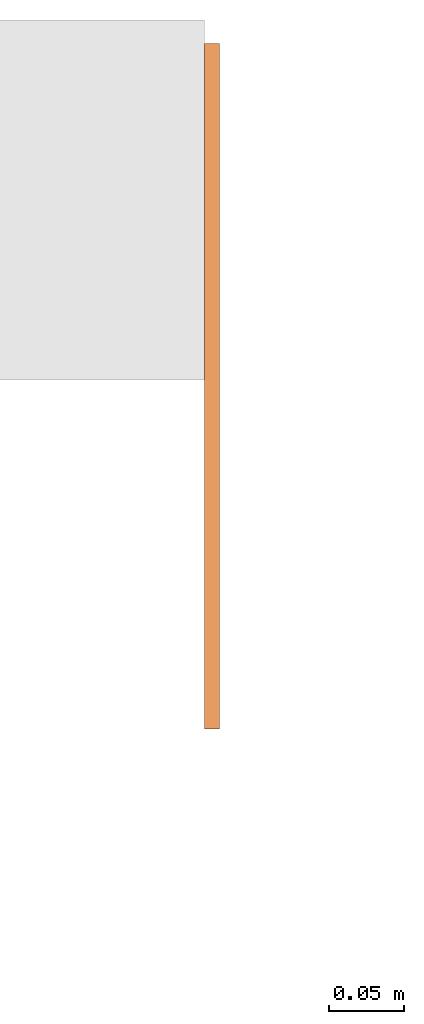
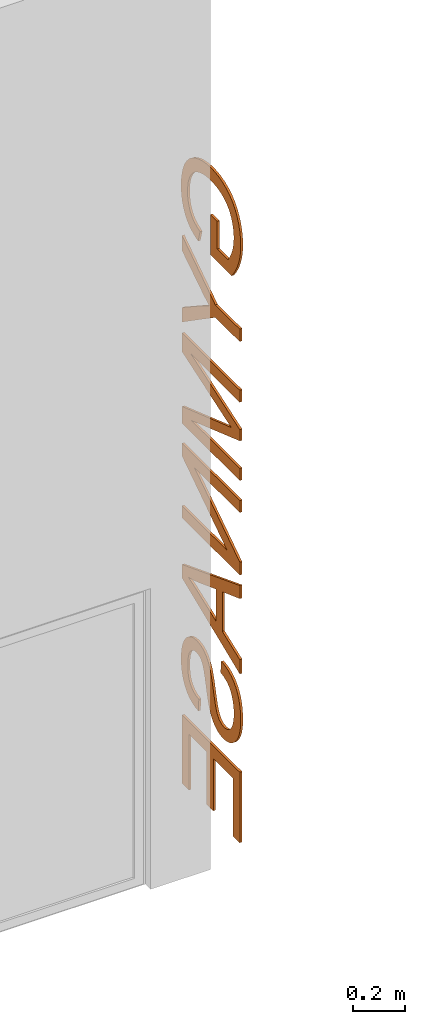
# One storey, part 14 of 14: 1 proxy.
"""IFC2X3 building model written with IfcOpenShell, lengths in metres."""

from ifc_helpers import new_model, entity, si_unit, converted_unit, money_unit, direction, frame, origin_with_axes, place, context, subcontext, project, spatial, faceted_brep, material, type_object, element, save


model = new_model("IFC2X3")

# Units and contexts
model_context = context("Model", 3, precision=1e-05, world=origin_with_axes(), true_north=direction((0.0, 1.0)))
body_context = subcontext(model_context, "Body", "Model", "MODEL_VIEW")
ifc_project = project(units=[si_unit("LENGTHUNIT", "METRE"), si_unit("AREAUNIT", "SQUARE_METRE"), si_unit("VOLUMEUNIT", "CUBIC_METRE"), converted_unit("PLANEANGLEUNIT", "DEGREE", entity("IfcPlaneAngleMeasure", 0.0174532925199), si_unit("PLANEANGLEUNIT", "RADIAN"), dimensions=[0, 0, 0, 0, 0, 0, 0]), si_unit("SOLIDANGLEUNIT", "STERADIAN"), money_unit("EUR"), converted_unit("TIMEUNIT", "Year", entity("IfcTimeMeasure", 31556926.0), si_unit("TIMEUNIT", "SECOND"), dimensions=[0, 0, 0, 0, 0, 0, 0]), si_unit("MASSUNIT", "GRAM"), si_unit("THERMODYNAMICTEMPERATUREUNIT", "DEGREE_CELSIUS"), si_unit("LUMINOUSINTENSITYUNIT", "LUMEN")], contexts=[model_context])

# Site, building, storey
site_placement = place(None, origin_with_axes())
site = spatial("IfcSite", under=ifc_project, at=site_placement, Name="Site", CompositionType="ELEMENT")
building_placement = place(site_placement, origin_with_axes())
building = spatial("IfcBuilding", under=site, at=building_placement, Name="Bâtiment", CompositionType="ELEMENT")
storey_placement = place(building_placement, frame((0.0, 0.0, 3.0), z_axis=(0.0, 0.0, 1.0), x_axis=(1.0, 0.0, 0.0)))
storey = spatial("IfcBuildingStorey", under=building, at=storey_placement, Name="NIVEAU HAUT ENTRÉE", CompositionType="ELEMENT", Elevation=3.0)

# Proxy
ifc_material = material(Name="Sans Trame")
building_element_proxy_type = type_object("IfcBuildingElementProxyType", Name="Texte_3D_OD", PredefinedType="NOTDEFINED")
proxy_placement = place(storey_placement, frame((45.428457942, 26.0639288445, 4.77442807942), z_axis=(0.0, 0.0, 1.0), x_axis=(0.0, 1.0, 0.0)))
element("IfcBuildingElementProxy", 1, at=proxy_placement, inside=storey, type_object=building_element_proxy_type, material=ifc_material, Name="MOB-0004", context=body_context, shape_type="Brep", body=[
    faceted_brep([(0.173109, 0.0, -0.254263), (0.173109, 0.01, -0.254263), (0.173109, 0.01, -0.384171), (0.173109, 0.0, -0.384171), (0.225257, 0.0, -0.254263), (0.225257, 0.01, -0.254263), (0.225257, 0.01, -0.441566), (0.061521, 0.01, -0.441566), (0.045427, 0.01, -0.419837), (0.031459, 0.01, -0.39777), (0.019617, 0.01, -0.375363), (0.009901, 0.01, -0.352618), (0.002329, 0.01, -0.329552), (-0.003079, 0.01, -0.306184), (-0.006324, 0.01, -0.282515), (-0.007406, 0.01, -0.258544), (-0.005663, 0.01, -0.226725), (-0.000435, 0.01, -0.196394), (0.008279, 0.01, -0.167553), (0.020479, 0.01, -0.1402), (0.035976, 0.01, -0.115222), (0.054581, 0.01, -0.093503), (0.076295, 0.01, -0.075045), (0.101117, 0.01, -0.059846), (0.128266, 0.01, -0.047973), (0.15696, 0.01, -0.039493), (0.187198, 0.01, -0.034405), (0.21898, 0.01, -0.032709), (0.250698, 0.01, -0.034395), (0.281342, 0.01, -0.039455), (0.310913, 0.01, -0.047888), (0.339409, 0.01, -0.059694), (0.365569, 0.01, -0.074666), (0.388131, 0.01, -0.092597), (0.407094, 0.01, -0.113486), (0.422458, 0.01, -0.137334), (0.434328, 0.01, -0.163622), (0.442806, 0.01, -0.191831), (0.447893, 0.01, -0.221963), (0.449589, 0.01, -0.254017), (0.448617, 0.01, -0.277412), (0.445703, 0.01, -0.299658), (0.440846, 0.01, -0.320754), (0.434047, 0.01, -0.340701), (0.422328, 0.01, -0.364672), (0.407893, 0.01, -0.384924), (0.390743, 0.01, -0.401456), (0.375806, 0.01, -0.411802), (0.358756, 0.01, -0.420828), (0.339595, 0.01, -0.428534), (0.31832, 0.01, -0.434922), (0.303856, 0.01, -0.38206), (0.324784, 0.01, -0.374889), (0.342497, 0.01, -0.366647), (0.356995, 0.01, -0.357333), (0.369031, 0.01, -0.346075), (0.379354, 0.01, -0.332003), (0.387966, 0.01, -0.315117), (0.394429, 0.01, -0.296153), (0.398307, 0.01, -0.275849), (0.3996, 0.01, -0.254205), (0.398243, 0.01, -0.228675), (0.394173, 0.01, -0.205557), (0.38739, 0.01, -0.184851), (0.378395, 0.01, -0.166608), (0.367693, 0.01, -0.150877), (0.355281, 0.01, -0.137659), (0.341581, 0.01, -0.126585), (0.327009, 0.01, -0.117287), (0.311566, 0.01, -0.109765), (0.290631, 0.01, -0.102378), (0.268831, 0.01, -0.097101), (0.246163, 0.01, -0.093935), (0.222629, 0.01, -0.09288), (0.194292, 0.01, -0.094152), (0.168365, 0.01, -0.097968), (0.14485, 0.01, -0.104329), (0.123747, 0.01, -0.113234), (0.10513, 0.01, -0.12457), (0.089076, 0.01, -0.138224), (0.075584, 0.01, -0.154196), (0.064655, 0.01, -0.172487), (0.056214, 0.01, -0.192238), (0.050184, 0.01, -0.212592), (0.046566, 0.01, -0.23355), (0.04536, 0.01, -0.255111), (0.04698, 0.01, -0.280239), (0.051839, 0.01, -0.304965), (0.059938, 0.01, -0.329289), (0.069873, 0.01, -0.351469), (0.080243, 0.01, -0.369763), (0.091048, 0.01, -0.384171), (0.091048, 0.0, -0.384171), (0.080243, 0.0, -0.369763), (0.069873, 0.0, -0.351469), (0.059938, 0.0, -0.329289), (0.051839, 0.0, -0.304965), (0.04698, 0.0, -0.280239), (0.04536, 0.0, -0.255111), (0.046566, 0.0, -0.23355), (0.050184, 0.0, -0.212592), (0.056214, 0.0, -0.192238), (0.064655, 0.0, -0.172487), (0.075584, 0.0, -0.154196), (0.089076, 0.0, -0.138224), (0.10513, 0.0, -0.12457), (0.123747, 0.0, -0.113234), (0.14485, 0.0, -0.104329), (0.168365, 0.0, -0.097968), (0.194292, 0.0, -0.094152), (0.222629, 0.0, -0.09288), (0.246163, 0.0, -0.093935), (0.268831, 0.0, -0.097101), (0.290631, 0.0, -0.102378), (0.311566, 0.0, -0.109765), (0.327009, 0.0, -0.117287), (0.341581, 0.0, -0.126585), (0.355281, 0.0, -0.137659), (0.367693, 0.0, -0.150877), (0.378395, 0.0, -0.166608), (0.38739, 0.0, -0.184851), (0.394173, 0.0, -0.205557), (0.398243, 0.0, -0.228675), (0.3996, 0.0, -0.254205), (0.398307, 0.0, -0.275849), (0.394429, 0.0, -0.296153), (0.387966, 0.0, -0.315117), (0.379354, 0.0, -0.332003), (0.369031, 0.0, -0.346075), (0.356995, 0.0, -0.357333), (0.342497, 0.0, -0.366647), (0.324784, 0.0, -0.374889), (0.303856, 0.0, -0.38206), (0.31832, 0.0, -0.434922), (0.339595, 0.0, -0.428534), (0.358756, 0.0, -0.420828), (0.375806, 0.0, -0.411802), (0.390743, 0.0, -0.401456), (0.407893, 0.0, -0.384924), (0.422328, 0.0, -0.364672), (0.434047, 0.0, -0.340701), (0.440846, 0.0, -0.320754), (0.445703, 0.0, -0.299658), (0.448617, 0.0, -0.277412), (0.449589, 0.0, -0.254017), (0.447893, 0.0, -0.221963), (0.442806, 0.0, -0.191831), (0.434328, 0.0, -0.163622), (0.422458, 0.0, -0.137334), (0.407094, 0.0, -0.113486), (0.388131, 0.0, -0.092597), (0.365569, 0.0, -0.074666), (0.339409, 0.0, -0.059694), (0.310913, 0.0, -0.047888), (0.281342, 0.0, -0.039455), (0.250698, 0.0, -0.034395), (0.21898, 0.0, -0.032709), (0.187198, 0.0, -0.034405), (0.15696, 0.0, -0.039493), (0.128266, 0.0, -0.047973), (0.101117, 0.0, -0.059846), (0.076295, 0.0, -0.075045), (0.054581, 0.0, -0.093503), (0.035976, 0.0, -0.115222), (0.020479, 0.0, -0.1402), (0.008279, 0.0, -0.167553), (-0.000435, 0.0, -0.196394), (-0.005663, 0.0, -0.226725), (-0.007406, 0.0, -0.258544), (-0.006324, 0.0, -0.282515), (-0.003079, 0.0, -0.306184), (0.002329, 0.0, -0.329552), (0.009901, 0.0, -0.352618), (0.019617, 0.0, -0.375363), (0.031459, 0.0, -0.39777), (0.045427, 0.0, -0.419837), (0.061521, 0.0, -0.441566), (0.225257, 0.0, -0.441566)], [[[0, 1, 2, 3]], [[4, 5, 1, 0]], [[1, 5, 6, 7, 8, 9, 10, 11, 12, 13, 14, 15, 16, 17, 18, 19, 20, 21, 22, 23, 24, 25, 26, 27, 28, 29, 30, 31, 32, 33, 34, 35, 36, 37, 38, 39, 40, 41, 42, 43, 44, 45, 46, 47, 48, 49, 50, 51, 52, 53, 54, 55, 56, 57, 58, 59, 60, 61, 62, 63, 64, 65, 66, 67, 68, 69, 70, 71, 72, 73, 74, 75, 76, 77, 78, 79, 80, 81, 82, 83, 84, 85, 86, 87, 88, 89, 90, 91, 2]], [[3, 2, 91, 92]], [[0, 3, 92, 93, 94, 95, 96, 97, 98, 99, 100, 101, 102, 103, 104, 105, 106, 107, 108, 109, 110, 111, 112, 113, 114, 115, 116, 117, 118, 119, 120, 121, 122, 123, 124, 125, 126, 127, 128, 129, 130, 131, 132, 133, 134, 135, 136, 137, 138, 139, 140, 141, 142, 143, 144, 145, 146, 147, 148, 149, 150, 151, 152, 153, 154, 155, 156, 157, 158, 159, 160, 161, 162, 163, 164, 165, 166, 167, 168, 169, 170, 171, 172, 173, 174, 175, 176, 177, 4]], [[177, 6, 5, 4]], [[176, 7, 6, 177]], [[175, 8, 7, 176]], [[174, 9, 8, 175]], [[173, 10, 9, 174]], [[172, 11, 10, 173]], [[171, 12, 11, 172]], [[170, 13, 12, 171]], [[169, 14, 13, 170]], [[168, 15, 14, 169]], [[167, 16, 15, 168]], [[166, 17, 16, 167]], [[165, 18, 17, 166]], [[164, 19, 18, 165]], [[163, 20, 19, 164]], [[162, 21, 20, 163]], [[161, 22, 21, 162]], [[160, 23, 22, 161]], [[159, 24, 23, 160]], [[158, 25, 24, 159]], [[157, 26, 25, 158]], [[156, 27, 26, 157]], [[155, 28, 27, 156]], [[154, 29, 28, 155]], [[153, 30, 29, 154]], [[152, 31, 30, 153]], [[151, 32, 31, 152]], [[150, 33, 32, 151]], [[149, 34, 33, 150]], [[148, 35, 34, 149]], [[147, 36, 35, 148]], [[146, 37, 36, 147]], [[145, 38, 37, 146]], [[144, 39, 38, 145]], [[143, 40, 39, 144]], [[142, 41, 40, 143]], [[141, 42, 41, 142]], [[140, 43, 42, 141]], [[139, 44, 43, 140]], [[138, 45, 44, 139]], [[137, 46, 45, 138]], [[136, 47, 46, 137]], [[135, 48, 47, 136]], [[134, 49, 48, 135]], [[133, 50, 49, 134]], [[132, 51, 50, 133]], [[131, 52, 51, 132]], [[130, 53, 52, 131]], [[129, 54, 53, 130]], [[128, 55, 54, 129]], [[127, 56, 55, 128]], [[126, 57, 56, 127]], [[125, 58, 57, 126]], [[124, 59, 58, 125]], [[123, 60, 59, 124]], [[122, 61, 60, 123]], [[121, 62, 61, 122]], [[120, 63, 62, 121]], [[119, 64, 63, 120]], [[118, 65, 64, 119]], [[117, 66, 65, 118]], [[116, 67, 66, 117]], [[115, 68, 67, 116]], [[114, 69, 68, 115]], [[113, 70, 69, 114]], [[112, 71, 70, 113]], [[111, 72, 71, 112]], [[110, 73, 72, 111]], [[109, 74, 73, 110]], [[108, 75, 74, 109]], [[107, 76, 75, 108]], [[106, 77, 76, 107]], [[105, 78, 77, 106]], [[104, 79, 78, 105]], [[103, 80, 79, 104]], [[102, 81, 80, 103]], [[101, 82, 81, 102]], [[100, 83, 82, 101]], [[99, 84, 83, 100]], [[98, 85, 84, 99]], [[97, 86, 85, 98]], [[96, 87, 86, 97]], [[95, 88, 87, 96]], [[94, 89, 88, 95]], [[93, 90, 89, 94]], [[92, 91, 90, 93]]]),
    faceted_brep([(0.0, 0.0, -0.653439), (0.0, 0.01, -0.653439), (0.0, 0.01, -0.711759), (0.0, 0.0, -0.711759), (0.187178, 0.0, -0.653439), (0.187178, 0.01, -0.653439), (0.441874, 0.01, -0.483107), (0.441874, 0.01, -0.554228), (0.308417, 0.01, -0.641144), (0.289814, 0.01, -0.653094), (0.271211, 0.01, -0.664586), (0.252609, 0.01, -0.67562), (0.234008, 0.01, -0.686195), (0.25181, 0.01, -0.696702), (0.270728, 0.01, -0.708249), (0.290762, 0.01, -0.720834), (0.311913, 0.01, -0.734458), (0.441874, 0.01, -0.819865), (0.441874, 0.01, -0.887953), (0.187178, 0.01, -0.711759), (0.187178, 0.0, -0.711759), (0.441874, 0.0, -0.887953), (0.441874, 0.0, -0.819865), (0.311913, 0.0, -0.734458), (0.290762, 0.0, -0.720834), (0.270728, 0.0, -0.708249), (0.25181, 0.0, -0.696702), (0.234008, 0.0, -0.686195), (0.252609, 0.0, -0.67562), (0.271211, 0.0, -0.664586), (0.289814, 0.0, -0.653094), (0.308417, 0.0, -0.641144), (0.441874, 0.0, -0.554228), (0.441874, 0.0, -0.483107)], [[[0, 1, 2, 3]], [[4, 5, 1, 0]], [[1, 5, 6, 7, 8, 9, 10, 11, 12, 13, 14, 15, 16, 17, 18, 19, 2]], [[3, 2, 19, 20]], [[0, 3, 20, 21, 22, 23, 24, 25, 26, 27, 28, 29, 30, 31, 32, 33, 4]], [[33, 6, 5, 4]], [[32, 7, 6, 33]], [[31, 8, 7, 32]], [[30, 9, 8, 31]], [[29, 10, 9, 30]], [[28, 11, 10, 29]], [[27, 12, 11, 28]], [[26, 13, 12, 27]], [[25, 14, 13, 26]], [[24, 15, 14, 25]], [[23, 16, 15, 24]], [[22, 17, 16, 23]], [[21, 18, 17, 22]], [[20, 19, 18, 21]]]),
    faceted_brep([(0.0, 0.0, -0.938469), (0.0, 0.01, -0.938469), (0.0, 0.01, -0.994937), (0.0, 0.0, -0.994937), (0.441874, 0.0, -0.938469), (0.441874, 0.01, -0.938469), (0.441874, 0.01, -1.026387), (0.129084, 0.01, -1.131041), (0.1024, 0.01, -1.139822), (0.080604, 0.01, -1.14686), (0.063696, 0.01, -1.152154), (0.082278, 0.01, -1.158136), (0.105882, 0.01, -1.165999), (0.134508, 0.01, -1.175746), (0.441874, 0.01, -1.281918), (0.441874, 0.01, -1.360594), (0.0, 0.01, -1.360594), (0.0, 0.01, -1.304126), (0.369977, 0.01, -1.304126), (0.0, 0.01, -1.175288), (0.0, 0.01, -1.122594), (0.376149, 0.01, -0.994937), (0.376149, 0.0, -0.994937), (0.0, 0.0, -1.122594), (0.0, 0.0, -1.175288), (0.369977, 0.0, -1.304126), (0.0, 0.0, -1.304126), (0.0, 0.0, -1.360594), (0.441874, 0.0, -1.360594), (0.441874, 0.0, -1.281918), (0.134508, 0.0, -1.175746), (0.105882, 0.0, -1.165999), (0.082278, 0.0, -1.158136), (0.063696, 0.0, -1.152154), (0.080604, 0.0, -1.14686), (0.1024, 0.0, -1.139822), (0.129084, 0.0, -1.131041), (0.441874, 0.0, -1.026387)], [[[0, 1, 2, 3]], [[4, 5, 1, 0]], [[1, 5, 6, 7, 8, 9, 10, 11, 12, 13, 14, 15, 16, 17, 18, 19, 20, 21, 2]], [[3, 2, 21, 22]], [[0, 3, 22, 23, 24, 25, 26, 27, 28, 29, 30, 31, 32, 33, 34, 35, 36, 37, 4]], [[37, 6, 5, 4]], [[36, 7, 6, 37]], [[35, 8, 7, 36]], [[34, 9, 8, 35]], [[33, 10, 9, 34]], [[32, 11, 10, 33]], [[31, 12, 11, 32]], [[30, 13, 12, 31]], [[29, 14, 13, 30]], [[28, 15, 14, 29]], [[27, 16, 15, 28]], [[26, 17, 16, 27]], [[25, 18, 17, 26]], [[24, 19, 18, 25]], [[23, 20, 19, 24]], [[22, 21, 20, 23]]]),
    faceted_brep([(0.0, 0.0, -1.453989), (0.0, 0.01, -1.453989), (0.0, 0.01, -1.510149), (0.0, 0.0, -1.510149), (0.441874, 0.0, -1.453989), (0.441874, 0.01, -1.453989), (0.441874, 0.01, -1.514064), (0.095006, 0.01, -1.745897), (0.441874, 0.01, -1.745897), (0.441874, 0.01, -1.802057), (0.0, 0.01, -1.802057), (0.0, 0.01, -1.741982), (0.346883, 0.01, -1.510149), (0.346883, 0.0, -1.510149), (0.0, 0.0, -1.741982), (0.0, 0.0, -1.802057), (0.441874, 0.0, -1.802057), (0.441874, 0.0, -1.745897), (0.095006, 0.0, -1.745897), (0.441874, 0.0, -1.514064)], [[[0, 1, 2, 3]], [[4, 5, 1, 0]], [[1, 5, 6, 7, 8, 9, 10, 11, 12, 2]], [[3, 2, 12, 13]], [[0, 3, 13, 14, 15, 16, 17, 18, 19, 4]], [[19, 6, 5, 4]], [[18, 7, 6, 19]], [[17, 8, 7, 18]], [[16, 9, 8, 17]], [[15, 10, 9, 16]], [[14, 11, 10, 15]], [[13, 12, 11, 14]]]),
    faceted_brep([(0.0, 0.0, -1.850787), (0.0, 0.01, -1.850787), (0.0, 0.01, -1.912526), (0.0, 0.0, -1.912526), (0.441874, 0.0, -2.020381), (0.441874, 0.01, -2.020381), (0.441874, 0.01, -2.083561), (0.0, 0.01, -2.263931), (0.0, 0.01, -2.197337), (0.13392, 0.01, -2.146244), (0.13392, 0.01, -1.960803), (0.18144, 0.01, -1.977683), (0.18144, 0.01, -2.127918), (0.303798, 0.01, -2.081787), (0.330447, 0.01, -2.071923), (0.354628, 0.01, -2.063388), (0.376342, 0.01, -2.056181), (0.395589, 0.01, -2.050303), (0.374311, 0.01, -2.045571), (0.353123, 0.01, -2.040012), (0.332024, 0.01, -2.033624), (0.311016, 0.01, -2.026408), (0.13392, 0.0, -1.960803), (0.13392, 0.0, -2.146244), (0.0, 0.0, -2.197337), (0.0, 0.0, -2.263931), (0.441874, 0.0, -2.083561), (0.18144, 0.0, -1.977683), (0.311016, 0.0, -2.026408), (0.332024, 0.0, -2.033624), (0.353123, 0.0, -2.040012), (0.374311, 0.0, -2.045571), (0.395589, 0.0, -2.050303), (0.376342, 0.0, -2.056181), (0.354628, 0.0, -2.063388), (0.330447, 0.0, -2.071923), (0.303798, 0.0, -2.081787), (0.18144, 0.0, -2.127918)], [[[0, 1, 2, 3]], [[4, 5, 1, 0]], [[1, 5, 6, 7, 8, 9, 10, 2], [11, 12, 13, 14, 15, 16, 17, 18, 19, 20, 21]], [[3, 2, 10, 22]], [[0, 3, 22, 23, 24, 25, 26, 4], [27, 28, 29, 30, 31, 32, 33, 34, 35, 36, 37]], [[26, 6, 5, 4]], [[25, 7, 6, 26]], [[24, 8, 7, 25]], [[23, 9, 8, 24]], [[22, 10, 9, 23]], [[37, 12, 11, 27]], [[36, 13, 12, 37]], [[35, 14, 13, 36]], [[34, 15, 14, 35]], [[33, 16, 15, 34]], [[32, 17, 16, 33]], [[31, 18, 17, 32]], [[30, 19, 18, 31]], [[29, 20, 19, 30]], [[28, 21, 20, 29]], [[27, 11, 21, 28]]]),
    faceted_brep([(0.141943, 0.0, -2.290937), (0.141943, 0.01, -2.290937), (0.120386, 0.01, -2.292904), (0.120386, 0.0, -2.292904), (0.14688, 0.0, -2.346171), (0.14688, 0.01, -2.346171), (0.126047, 0.01, -2.349932), (0.107866, 0.01, -2.355999), (0.092338, 0.01, -2.364372), (0.079042, 0.01, -2.375654), (0.067559, 0.01, -2.390444), (0.057888, 0.01, -2.408744), (0.050585, 0.01, -2.429634), (0.046203, 0.01, -2.452197), (0.044743, 0.01, -2.476432), (0.045851, 0.01, -2.497822), (0.049175, 0.01, -2.517475), (0.054716, 0.01, -2.535391), (0.062187, 0.01, -2.550984), (0.071303, 0.01, -2.563669), (0.082063, 0.01, -2.573446), (0.093993, 0.01, -2.580383), (0.106616, 0.01, -2.584544), (0.119933, 0.01, -2.585931), (0.139409, 0.01, -2.582919), (0.156248, 0.01, -2.573883), (0.166044, 0.01, -2.564112), (0.174737, 0.01, -2.550864), (0.182327, 0.01, -2.53414), (0.186277, 0.01, -2.52257), (0.191189, 0.01, -2.50562), (0.197063, 0.01, -2.483289), (0.203898, 0.01, -2.455577), (0.211111, 0.01, -2.427448), (0.218115, 0.01, -2.403865), (0.224912, 0.01, -2.38483), (0.231501, 0.01, -2.370341), (0.243449, 0.01, -2.35102), (0.257174, 0.01, -2.335284), (0.272676, 0.01, -2.323135), (0.289719, 0.01, -2.314504), (0.308069, 0.01, -2.309326), (0.327727, 0.01, -2.3076), (0.349561, 0.01, -2.309709), (0.370424, 0.01, -2.316038), (0.390316, 0.01, -2.326584), (0.408164, 0.01, -2.341183), (0.422894, 0.01, -2.359665), (0.434507, 0.01, -2.382031), (0.441105, 0.01, -2.40077), (0.445818, 0.01, -2.420527), (0.448646, 0.01, -2.4413), (0.449589, 0.01, -2.463091), (0.448599, 0.01, -2.486926), (0.445631, 0.01, -2.50931), (0.440684, 0.01, -2.530244), (0.433757, 0.01, -2.549727), (0.421545, 0.01, -2.572813), (0.406017, 0.01, -2.592049), (0.387173, 0.01, -2.607435), (0.365765, 0.01, -2.61882), (0.342548, 0.01, -2.626052), (0.31752, 0.01, -2.629131), (0.3132, 0.01, -2.572971), (0.338902, 0.01, -2.567571), (0.360041, 0.01, -2.557388), (0.376616, 0.01, -2.54242), (0.385997, 0.01, -2.527849), (0.392697, 0.01, -2.510174), (0.396717, 0.01, -2.489395), (0.398057, 0.01, -2.465511), (0.396841, 0.01, -2.440819), (0.393192, 0.01, -2.41972), (0.38711, 0.01, -2.402214), (0.378595, 0.01, -2.388301), (0.364733, 0.01, -2.374839), (0.349095, 0.01, -2.366761), (0.331681, 0.01, -2.364069), (0.316728, 0.01, -2.365975), (0.303654, 0.01, -2.371695), (0.292458, 0.01, -2.381228), (0.284716, 0.01, -2.393052), (0.27688, 0.01, -2.411667), (0.26895, 0.01, -2.437074), (0.260926, 0.01, -2.469272), (0.253111, 0.01, -2.502076), (0.245806, 0.01, -2.529299), (0.239013, 0.01, -2.550941), (0.23273, 0.01, -2.567003), (0.219825, 0.01, -2.590494), (0.20481, 0.01, -2.609494), (0.187686, 0.01, -2.624004), (0.168587, 0.01, -2.634224), (0.147647, 0.01, -2.640356), (0.124865, 0.01, -2.6424), (0.101815, 0.01, -2.640158), (0.079669, 0.01, -2.633432), (0.058428, 0.01, -2.622222), (0.03918, 0.01, -2.606813), (0.02301, 0.01, -2.587488), (0.00992, 0.01, -2.564247), (0.00234, 0.01, -2.544755), (-0.003074, 0.01, -2.524078), (-0.006323, 0.01, -2.502215), (-0.007406, 0.01, -2.479166), (-0.006314, 0.01, -2.450414), (-0.00304, 0.01, -2.424091), (0.002417, 0.01, -2.400196), (0.010058, 0.01, -2.378728), (0.01989, 0.01, -2.359566), (0.031925, 0.01, -2.342588), (0.046162, 0.01, -2.327793), (0.062601, 0.01, -2.315182), (0.080716, 0.01, -2.305027), (0.099977, 0.01, -2.297601), (0.099977, 0.0, -2.297601), (0.080716, 0.0, -2.305027), (0.062601, 0.0, -2.315182), (0.046162, 0.0, -2.327793), (0.031925, 0.0, -2.342588), (0.01989, 0.0, -2.359566), (0.010058, 0.0, -2.378728), (0.002417, 0.0, -2.400196), (-0.00304, 0.0, -2.424091), (-0.006314, 0.0, -2.450414), (-0.007406, 0.0, -2.479166), (-0.006323, 0.0, -2.502215), (-0.003074, 0.0, -2.524078), (0.00234, 0.0, -2.544755), (0.00992, 0.0, -2.564247), (0.02301, 0.0, -2.587488), (0.03918, 0.0, -2.606813), (0.058428, 0.0, -2.622222), (0.079669, 0.0, -2.633432), (0.101815, 0.0, -2.640158), (0.124865, 0.0, -2.6424), (0.147647, 0.0, -2.640356), (0.168587, 0.0, -2.634224), (0.187686, 0.0, -2.624004), (0.20481, 0.0, -2.609494), (0.219825, 0.0, -2.590494), (0.23273, 0.0, -2.567003), (0.239013, 0.0, -2.550941), (0.245806, 0.0, -2.529299), (0.253111, 0.0, -2.502076), (0.260926, 0.0, -2.469272), (0.26895, 0.0, -2.437074), (0.27688, 0.0, -2.411667), (0.284716, 0.0, -2.393052), (0.292458, 0.0, -2.381228), (0.303654, 0.0, -2.371695), (0.316728, 0.0, -2.365975), (0.331681, 0.0, -2.364069), (0.349095, 0.0, -2.366761), (0.364733, 0.0, -2.374839), (0.378595, 0.0, -2.388301), (0.38711, 0.0, -2.402214), (0.393192, 0.0, -2.41972), (0.396841, 0.0, -2.440819), (0.398057, 0.0, -2.465511), (0.396717, 0.0, -2.489395), (0.392697, 0.0, -2.510174), (0.385997, 0.0, -2.527849), (0.376616, 0.0, -2.54242), (0.360041, 0.0, -2.557388), (0.338902, 0.0, -2.567571), (0.3132, 0.0, -2.572971), (0.31752, 0.0, -2.629131), (0.342548, 0.0, -2.626052), (0.365765, 0.0, -2.61882), (0.387173, 0.0, -2.607435), (0.406017, 0.0, -2.592049), (0.421545, 0.0, -2.572813), (0.433757, 0.0, -2.549727), (0.440684, 0.0, -2.530244), (0.445631, 0.0, -2.50931), (0.448599, 0.0, -2.486926), (0.449589, 0.0, -2.463091), (0.448646, 0.0, -2.4413), (0.445818, 0.0, -2.420527), (0.441105, 0.0, -2.40077), (0.434507, 0.0, -2.382031), (0.422894, 0.0, -2.359665), (0.408164, 0.0, -2.341183), (0.390316, 0.0, -2.326584), (0.370424, 0.0, -2.316038), (0.349561, 0.0, -2.309709), (0.327727, 0.0, -2.3076), (0.308069, 0.0, -2.309326), (0.289719, 0.0, -2.314504), (0.272676, 0.0, -2.323135), (0.257174, 0.0, -2.335284), (0.243449, 0.0, -2.35102), (0.231501, 0.0, -2.370341), (0.224912, 0.0, -2.38483), (0.218115, 0.0, -2.403865), (0.211111, 0.0, -2.427448), (0.203898, 0.0, -2.455577), (0.197063, 0.0, -2.483289), (0.191189, 0.0, -2.50562), (0.186277, 0.0, -2.52257), (0.182327, 0.0, -2.53414), (0.174737, 0.0, -2.550864), (0.166044, 0.0, -2.564112), (0.156248, 0.0, -2.573883), (0.139409, 0.0, -2.582919), (0.119933, 0.0, -2.585931), (0.106616, 0.0, -2.584544), (0.093993, 0.0, -2.580383), (0.082063, 0.0, -2.573446), (0.071303, 0.0, -2.563669), (0.062187, 0.0, -2.550984), (0.054716, 0.0, -2.535391), (0.049175, 0.0, -2.517475), (0.045851, 0.0, -2.497822), (0.044743, 0.0, -2.476432), (0.046203, 0.0, -2.452197), (0.050585, 0.0, -2.429634), (0.057888, 0.0, -2.408744), (0.067559, 0.0, -2.390444), (0.079042, 0.0, -2.375654), (0.092338, 0.0, -2.364372), (0.107866, 0.0, -2.355999), (0.126047, 0.0, -2.349932)], [[[0, 1, 2, 3]], [[4, 5, 1, 0]], [[1, 5, 6, 7, 8, 9, 10, 11, 12, 13, 14, 15, 16, 17, 18, 19, 20, 21, 22, 23, 24, 25, 26, 27, 28, 29, 30, 31, 32, 33, 34, 35, 36, 37, 38, 39, 40, 41, 42, 43, 44, 45, 46, 47, 48, 49, 50, 51, 52, 53, 54, 55, 56, 57, 58, 59, 60, 61, 62, 63, 64, 65, 66, 67, 68, 69, 70, 71, 72, 73, 74, 75, 76, 77, 78, 79, 80, 81, 82, 83, 84, 85, 86, 87, 88, 89, 90, 91, 92, 93, 94, 95, 96, 97, 98, 99, 100, 101, 102, 103, 104, 105, 106, 107, 108, 109, 110, 111, 112, 113, 114, 2]], [[3, 2, 114, 115]], [[0, 3, 115, 116, 117, 118, 119, 120, 121, 122, 123, 124, 125, 126, 127, 128, 129, 130, 131, 132, 133, 134, 135, 136, 137, 138, 139, 140, 141, 142, 143, 144, 145, 146, 147, 148, 149, 150, 151, 152, 153, 154, 155, 156, 157, 158, 159, 160, 161, 162, 163, 164, 165, 166, 167, 168, 169, 170, 171, 172, 173, 174, 175, 176, 177, 178, 179, 180, 181, 182, 183, 184, 185, 186, 187, 188, 189, 190, 191, 192, 193, 194, 195, 196, 197, 198, 199, 200, 201, 202, 203, 204, 205, 206, 207, 208, 209, 210, 211, 212, 213, 214, 215, 216, 217, 218, 219, 220, 221, 222, 223, 4]], [[223, 6, 5, 4]], [[222, 7, 6, 223]], [[221, 8, 7, 222]], [[220, 9, 8, 221]], [[219, 10, 9, 220]], [[218, 11, 10, 219]], [[217, 12, 11, 218]], [[216, 13, 12, 217]], [[215, 14, 13, 216]], [[214, 15, 14, 215]], [[213, 16, 15, 214]], [[212, 17, 16, 213]], [[211, 18, 17, 212]], [[210, 19, 18, 211]], [[209, 20, 19, 210]], [[208, 21, 20, 209]], [[207, 22, 21, 208]], [[206, 23, 22, 207]], [[205, 24, 23, 206]], [[204, 25, 24, 205]], [[203, 26, 25, 204]], [[202, 27, 26, 203]], [[201, 28, 27, 202]], [[200, 29, 28, 201]], [[199, 30, 29, 200]], [[198, 31, 30, 199]], [[197, 32, 31, 198]], [[196, 33, 32, 197]], [[195, 34, 33, 196]], [[194, 35, 34, 195]], [[193, 36, 35, 194]], [[192, 37, 36, 193]], [[191, 38, 37, 192]], [[190, 39, 38, 191]], [[189, 40, 39, 190]], [[188, 41, 40, 189]], [[187, 42, 41, 188]], [[186, 43, 42, 187]], [[185, 44, 43, 186]], [[184, 45, 44, 185]], [[183, 46, 45, 184]], [[182, 47, 46, 183]], [[181, 48, 47, 182]], [[180, 49, 48, 181]], [[179, 50, 49, 180]], [[178, 51, 50, 179]], [[177, 52, 51, 178]], [[176, 53, 52, 177]], [[175, 54, 53, 176]], [[174, 55, 54, 175]], [[173, 56, 55, 174]], [[172, 57, 56, 173]], [[171, 58, 57, 172]], [[170, 59, 58, 171]], [[169, 60, 59, 170]], [[168, 61, 60, 169]], [[167, 62, 61, 168]], [[166, 63, 62, 167]], [[165, 64, 63, 166]], [[164, 65, 64, 165]], [[163, 66, 65, 164]], [[162, 67, 66, 163]], [[161, 68, 67, 162]], [[160, 69, 68, 161]], [[159, 70, 69, 160]], [[158, 71, 70, 159]], [[157, 72, 71, 158]], [[156, 73, 72, 157]], [[155, 74, 73, 156]], [[154, 75, 74, 155]], [[153, 76, 75, 154]], [[152, 77, 76, 153]], [[151, 78, 77, 152]], [[150, 79, 78, 151]], [[149, 80, 79, 150]], [[148, 81, 80, 149]], [[147, 82, 81, 148]], [[146, 83, 82, 147]], [[145, 84, 83, 146]], [[144, 85, 84, 145]], [[143, 86, 85, 144]], [[142, 87, 86, 143]], [[141, 88, 87, 142]], [[140, 89, 88, 141]], [[139, 90, 89, 140]], [[138, 91, 90, 139]], [[137, 92, 91, 138]], [[136, 93, 92, 137]], [[135, 94, 93, 136]], [[134, 95, 94, 135]], [[133, 96, 95, 134]], [[132, 97, 96, 133]], [[131, 98, 97, 132]], [[130, 99, 98, 131]], [[129, 100, 99, 130]], [[128, 101, 100, 129]], [[127, 102, 101, 128]], [[126, 103, 102, 127]], [[125, 104, 103, 126]], [[124, 105, 104, 125]], [[123, 106, 105, 124]], [[122, 107, 106, 123]], [[121, 108, 107, 122]], [[120, 109, 108, 121]], [[119, 110, 109, 120]], [[118, 111, 110, 119]], [[117, 112, 111, 118]], [[116, 113, 112, 117]], [[115, 114, 113, 116]]]),
    faceted_brep([(0.0, 0.0, -2.72304), (0.0, 0.01, -2.72304), (0.0, 0.01, -3.052903), (0.0, 0.0, -3.052903), (0.441874, 0.0, -2.72304), (0.441874, 0.01, -2.72304), (0.441874, 0.01, -3.04272), (0.389726, 0.01, -3.04272), (0.389726, 0.01, -2.78136), (0.254571, 0.01, -2.78136), (0.254571, 0.01, -3.026057), (0.202423, 0.01, -3.026057), (0.202423, 0.01, -2.78136), (0.052149, 0.01, -2.78136), (0.052149, 0.01, -3.052903), (0.052149, 0.0, -3.052903), (0.052149, 0.0, -2.78136), (0.202423, 0.0, -2.78136), (0.202423, 0.0, -3.026057), (0.254571, 0.0, -3.026057), (0.254571, 0.0, -2.78136), (0.389726, 0.0, -2.78136), (0.389726, 0.0, -3.04272), (0.441874, 0.0, -3.04272)], [[[0, 1, 2, 3]], [[4, 5, 1, 0]], [[1, 5, 6, 7, 8, 9, 10, 11, 12, 13, 14, 2]], [[3, 2, 14, 15]], [[0, 3, 15, 16, 17, 18, 19, 20, 21, 22, 23, 4]], [[23, 6, 5, 4]], [[22, 7, 6, 23]], [[21, 8, 7, 22]], [[20, 9, 8, 21]], [[19, 10, 9, 20]], [[18, 11, 10, 19]], [[17, 12, 11, 18]], [[16, 13, 12, 17]], [[15, 14, 13, 16]]]),
])

save(model, "model.ifc")
